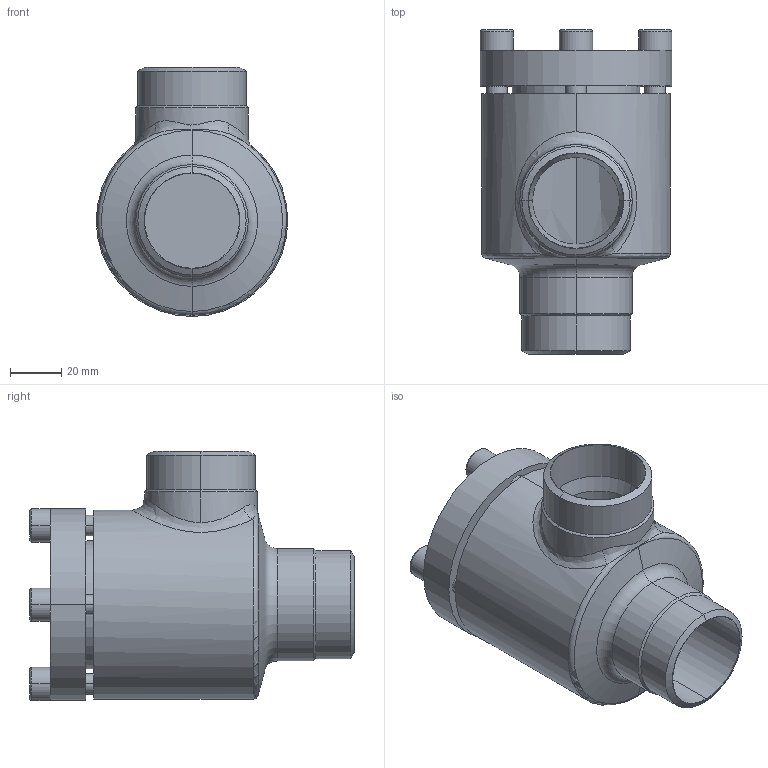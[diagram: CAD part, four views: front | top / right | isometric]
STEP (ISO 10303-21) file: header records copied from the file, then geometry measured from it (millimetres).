
FILE_DESCRIPTION (( 'STEP AP214' ), '1' );
FILE_NAME ('SS52400D13-DN032_R1_PS40.STEP', '2006-05-02T05:51:10', ( 'Herr Grams' ), ( 'AWP GmbH' ), 'SwSTEP 2.0', 'SolidWorks 2002296', '' );
FILE_SCHEMA (( 'AUTOMOTIVE_DESIGN' ));
Length unit declared in the file: millimetre
Products named in the file (5): SS52400D13-DN032_R1_PS40; Gehäuse16400-DN032_Standard; SS52300E13_Deck+Schr-DN25-32_Standard; Deckel52300E13-DN25-32_Standard; Zylinderschraube-DIN912_M 8x 25
Assembly tree (7 placements, depth 3):
  SS52400D13-DN032_R1_PS40
    Gehäuse16400-DN032_Standard
    SS52300E13_Deck+Schr-DN25-32_Standard
      Zylinderschraube-DIN912_M 8x 25  x4
      Deckel52300E13-DN25-32_Standard
Bounding box: 75 x 127 x 97.5 mm (x, y, z)
Volume: 241868.6 mm3; surface area: 66262.3 mm2
Topology: 6 solids, 6 shells, 133 faces, 288 edges, 178 vertices
Faces by surface type: plane 49, cylinder 48, cone 22, torus 12, bspline 2
Entity records: 12365 total; most frequent: CARTESIAN_POINT 10082, DIRECTION 430, ORIENTED_EDGE 348, AXIS2_PLACEMENT_3D 180, EDGE_CURVE 174, VERTEX_POINT 106, EDGE_LOOP 96, CIRCLE 92
